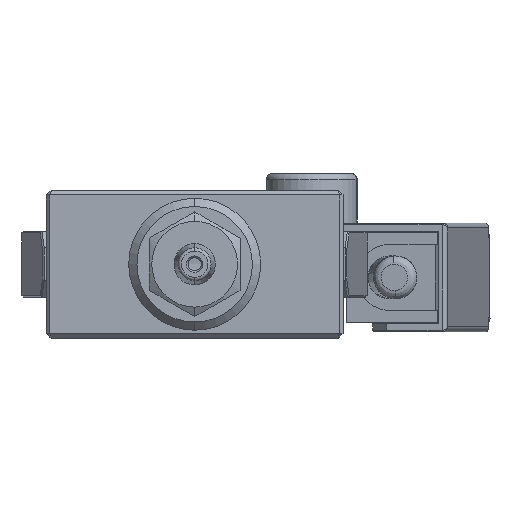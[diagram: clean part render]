
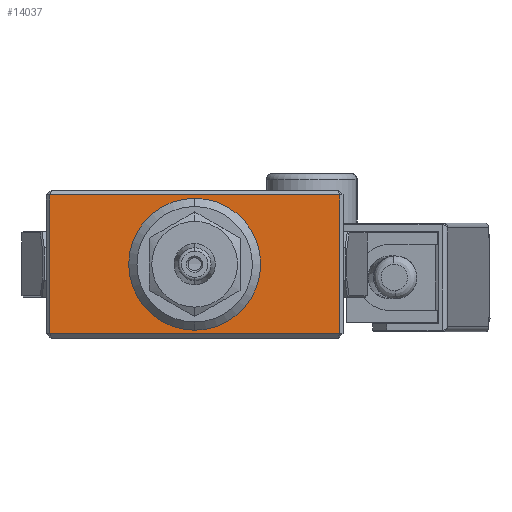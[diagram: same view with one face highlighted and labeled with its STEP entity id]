
A CAD part, front view. The second image highlights one B-rep face of the part: STEP entity #14037.
In plain terms, the highlighted planar face has unit normal (0, -1, 0).
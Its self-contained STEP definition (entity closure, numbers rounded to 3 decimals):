
#1690 = ORIENTED_EDGE ( 'NONE', *, *, #19242, .T. ) ;
#3710 = DIRECTION ( 'NONE',  ( 0., -1., 0. ) ) ;
#4049 = VECTOR ( 'NONE', #38266, 1000. ) ;
#4486 = CARTESIAN_POINT ( 'NONE',  ( -8.8, -10.25, -8.7 ) ) ;
#5327 = AXIS2_PLACEMENT_3D ( 'NONE', #42747, #19328, #46771 ) ;
#6788 = CARTESIAN_POINT ( 'NONE',  ( -8.8, -10.25, -0.3 ) ) ;
#6884 = VECTOR ( 'NONE', #20731, 1000. ) ;
#7619 = FACE_OUTER_BOUND ( 'NONE', #40280, .T. ) ;
#8119 = LINE ( 'NONE', #16808, #6884 ) ;
#9151 = VERTEX_POINT ( 'NONE', #39823 ) ;
#10316 = LINE ( 'NONE', #6788, #47049 ) ;
#10750 = DIRECTION ( 'NONE',  ( -1., 0., 0. ) ) ;
#14037 = ADVANCED_FACE ( 'NONE', ( #7619, #27179 ), #50497, .T. ) ;
#14463 = CARTESIAN_POINT ( 'NONE',  ( 8.8, -10.25, -0.3 ) ) ;
#16808 = CARTESIAN_POINT ( 'NONE',  ( 9., -10.25, -8.7 ) ) ;
#16811 = AXIS2_PLACEMENT_3D ( 'NONE', #21176, #48644, #25127 ) ;
#17022 = CIRCLE ( 'NONE', #5327, 4. ) ;
#18142 = CARTESIAN_POINT ( 'NONE',  ( 8.8, -10.25, 0. ) ) ;
#18525 = ORIENTED_EDGE ( 'NONE', *, *, #30420, .F. ) ;
#18954 = CARTESIAN_POINT ( 'NONE',  ( -8.8, -10.25, 0. ) ) ;
#19242 = EDGE_CURVE ( 'NONE', #9151, #23838, #42645, .T. ) ;
#19328 = DIRECTION ( 'NONE',  ( 0., -1., 0. ) ) ;
#20073 = CARTESIAN_POINT ( 'NONE',  ( 0., -10.25, -8.5 ) ) ;
#20731 = DIRECTION ( 'NONE',  ( 1., 0., 0. ) ) ;
#21176 = CARTESIAN_POINT ( 'NONE',  ( 0., -10.25, -4.5 ) ) ;
#21828 = VECTOR ( 'NONE', #25996, 1000. ) ;
#22392 = CARTESIAN_POINT ( 'NONE',  ( -8.8, -10.25, -0.3 ) ) ;
#23838 = VERTEX_POINT ( 'NONE', #14463 ) ;
#24006 = VERTEX_POINT ( 'NONE', #42476 ) ;
#25127 = DIRECTION ( 'NONE',  ( 1., 0., 0. ) ) ;
#25996 = DIRECTION ( 'NONE',  ( 0., 0., 1. ) ) ;
#27156 = CARTESIAN_POINT ( 'NONE',  ( 9., -10.25, 0. ) ) ;
#27179 = FACE_BOUND ( 'NONE', #38371, .T. ) ;
#29817 = ORIENTED_EDGE ( 'NONE', *, *, #33399, .T. ) ;
#30420 = EDGE_CURVE ( 'NONE', #24006, #50235, #17022, .T. ) ;
#31052 = DIRECTION ( 'NONE',  ( 0., 0., -1. ) ) ;
#32267 = EDGE_CURVE ( 'NONE', #37082, #48160, #34039, .T. ) ;
#33399 = EDGE_CURVE ( 'NONE', #48160, #9151, #8119, .T. ) ;
#34039 = LINE ( 'NONE', #18954, #4049 ) ;
#35561 = AXIS2_PLACEMENT_3D ( 'NONE', #27156, #3710, #31052 ) ;
#35830 = EDGE_CURVE ( 'NONE', #50235, #24006, #45849, .T. ) ;
#37082 = VERTEX_POINT ( 'NONE', #22392 ) ;
#37432 = ORIENTED_EDGE ( 'NONE', *, *, #35830, .F. ) ;
#38159 = EDGE_CURVE ( 'NONE', #23838, #37082, #10316, .T. ) ;
#38266 = DIRECTION ( 'NONE',  ( 0., 0., -1. ) ) ;
#38371 = EDGE_LOOP ( 'NONE', ( #18525, #37432 ) ) ;
#39823 = CARTESIAN_POINT ( 'NONE',  ( 8.8, -10.25, -8.7 ) ) ;
#40280 = EDGE_LOOP ( 'NONE', ( #45180, #49298, #29817, #1690 ) ) ;
#42476 = CARTESIAN_POINT ( 'NONE',  ( 0., -10.25, -0.5 ) ) ;
#42645 = LINE ( 'NONE', #18142, #21828 ) ;
#42747 = CARTESIAN_POINT ( 'NONE',  ( 0., -10.25, -4.5 ) ) ;
#45180 = ORIENTED_EDGE ( 'NONE', *, *, #38159, .T. ) ;
#45849 = CIRCLE ( 'NONE', #16811, 4. ) ;
#46771 = DIRECTION ( 'NONE',  ( 1., 0., 0. ) ) ;
#47049 = VECTOR ( 'NONE', #10750, 1000. ) ;
#48160 = VERTEX_POINT ( 'NONE', #4486 ) ;
#48644 = DIRECTION ( 'NONE',  ( 0., -1., 0. ) ) ;
#49298 = ORIENTED_EDGE ( 'NONE', *, *, #32267, .T. ) ;
#50235 = VERTEX_POINT ( 'NONE', #20073 ) ;
#50497 = PLANE ( 'NONE',  #35561 ) ;
